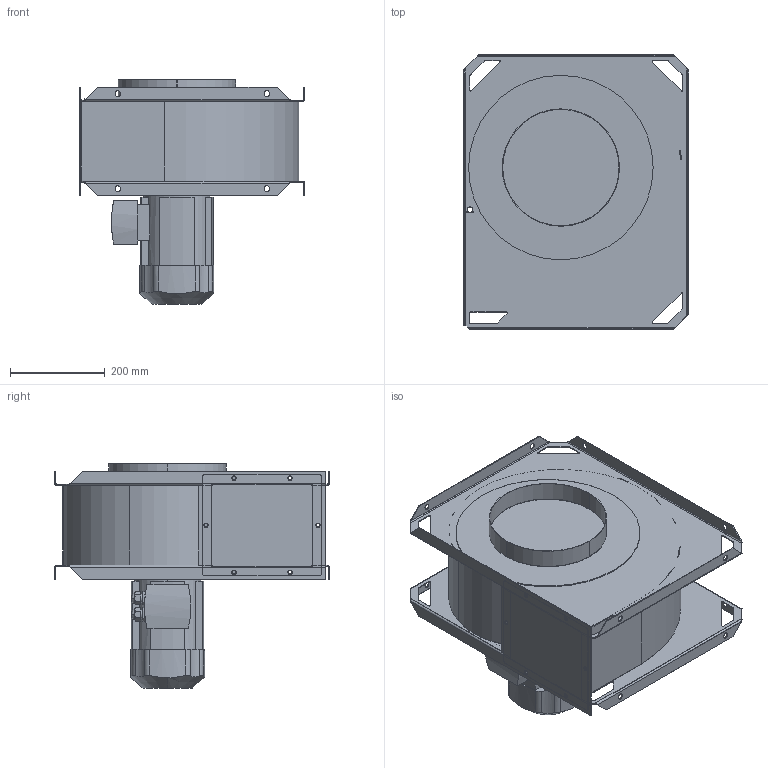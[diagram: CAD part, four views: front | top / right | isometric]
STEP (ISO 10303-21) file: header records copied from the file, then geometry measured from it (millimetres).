
FILE_DESCRIPTION((''),'2;1');
FILE_NAME('FBE_075-3_LG90','2022-10-13T14:19:17',('Tomas Bellgran'),(''),'CREO PARAMETRIC BY PTC INC, 2018260','CREO PARAMETRIC BY PTC INC, 2018260','');
FILE_SCHEMA(('AUTOMOTIVE_DESIGN { 1 0 10303 214 1 1 1 1 }'));
Length unit declared in the file: millimetre
Products named in the file (12): 114794; 116012; 116013; 114802; 116457; 116830; 116832; 116829; 4A3_80M_B5_L; 120065; 117679; FBE_075-3_LG90
Assembly tree (11 placements, depth 3):
  FBE_075-3_LG90
    114802
      114794
      116012
      116013
    116457
    116829
      116830
      116832
    120065
      4A3_80M_B5_L
    117679
Bounding box: 475.8 x 580 x 474.25 mm (x, y, z)
Volume: 7294654.5 mm3; surface area: 2324922.3 mm2
Topology: 9 solids, 9 shells, 509 faces, 1310 edges, 832 vertices
Faces by surface type: plane 301, cylinder 180, bspline 22, cone 6
Entity records: 26634 total; most frequent: CARTESIAN_POINT 4127, ORIENTED_EDGE 2620, DIRECTION 2614, PRESENTATION_STYLE_ASSIGNMENT 1828, STYLED_ITEM 1828, CURVE_STYLE 1310, EDGE_CURVE 1310, VECTOR 894
